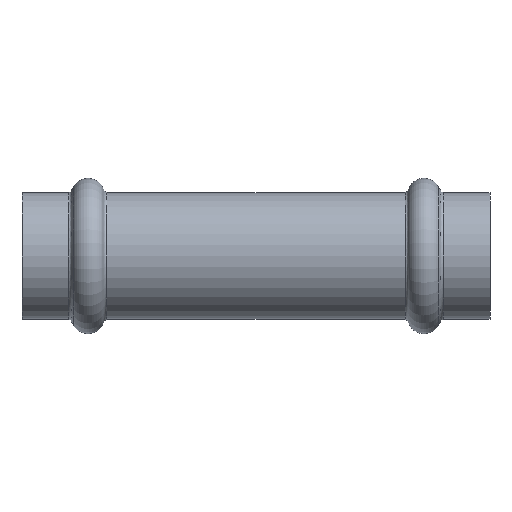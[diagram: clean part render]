
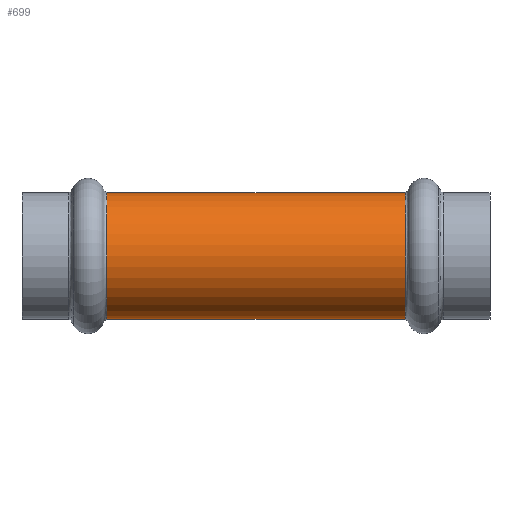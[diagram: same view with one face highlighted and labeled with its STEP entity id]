
A CAD part, front view. The second image highlights one B-rep face of the part: STEP entity #699.
In plain terms, the highlighted cylindrical face has radius 10.575 mm (diameter 21.15 mm), a full revolution.
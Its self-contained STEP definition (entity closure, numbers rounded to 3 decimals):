
#657=CARTESIAN_POINT('',(-14.13,10.575,0.0));
#658=VERTEX_POINT('',#657);
#659=CARTESIAN_POINT('',(-14.13,0.,0.0));
#660=DIRECTION('',(1.0,0.0,0.0));
#661=DIRECTION('',(0.0,-1.0,0.0));
#662=AXIS2_PLACEMENT_3D('',#659,#660,#661);
#663=CIRCLE('',#662,10.575);
#664=EDGE_CURVE('',#658,#658,#663,.T.);
#680=CARTESIAN_POINT('',(-39.,0.,0.0));
#681=DIRECTION('',(1.0,0.,0.0));
#682=DIRECTION('',(0.0,1.0,0.0));
#683=AXIS2_PLACEMENT_3D('',#680,#681,#682);
#684=CYLINDRICAL_SURFACE('',#683,10.575);
#685=CARTESIAN_POINT('',(-63.87,10.575,0.));
#686=VERTEX_POINT('',#685);
#687=CARTESIAN_POINT('',(-63.87,0.,0.0));
#688=DIRECTION('',(-1.0,0.0,0.0));
#689=DIRECTION('',(0.0,-1.0,0.0));
#690=AXIS2_PLACEMENT_3D('',#687,#688,#689);
#691=CIRCLE('',#690,10.575);
#692=EDGE_CURVE('',#686,#686,#691,.T.);
#693=ORIENTED_EDGE('',*,*,#692,.F.);
#694=EDGE_LOOP('',(#693));
#695=FACE_OUTER_BOUND('',#694,.T.);
#696=ORIENTED_EDGE('',*,*,#664,.F.);
#697=EDGE_LOOP('',(#696));
#698=FACE_BOUND('',#697,.T.);
#699=ADVANCED_FACE('',(#695,#698),#684,.T.);
